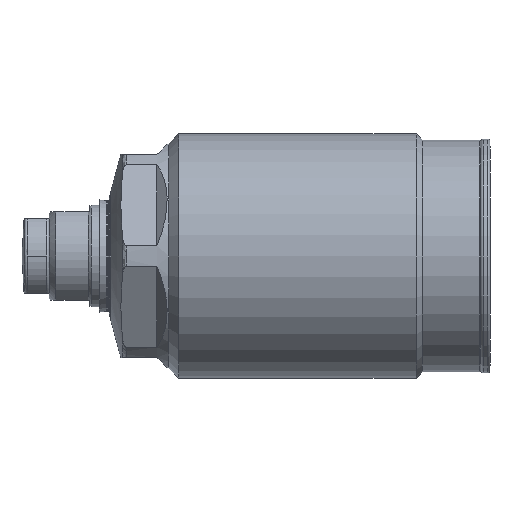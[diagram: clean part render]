
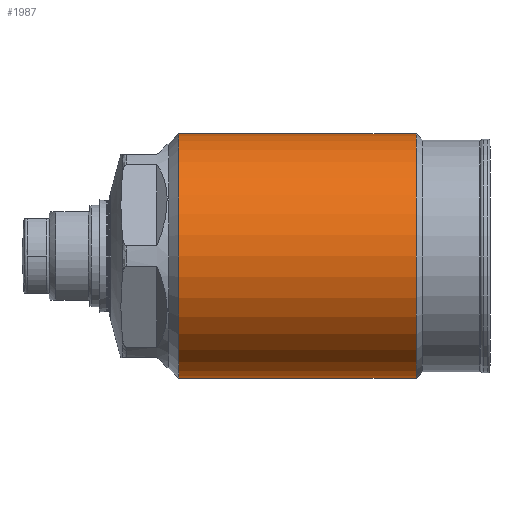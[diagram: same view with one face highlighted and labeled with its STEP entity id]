
A CAD part, left-side view. The second image highlights one B-rep face of the part: STEP entity #1987.
In plain terms, the highlighted cylindrical face has radius 18 mm (diameter 36 mm), a partial arc.
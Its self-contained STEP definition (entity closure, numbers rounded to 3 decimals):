
#933=CYLINDRICAL_SURFACE('',#6668,18.);
#1420=LINE('',#10041,#1719);
#1421=LINE('',#10045,#1720);
#1719=VECTOR('',#7981,1.);
#1720=VECTOR('',#7984,1.);
#1987=ADVANCED_FACE('',(#2415),#933,.T.);
#2415=FACE_OUTER_BOUND('',#2793,.T.);
#2793=EDGE_LOOP('',(#3844,#3845,#3846,#3847));
#3844=ORIENTED_EDGE('',*,*,#5422,.T.);
#3845=ORIENTED_EDGE('',*,*,#5526,.T.);
#3846=ORIENTED_EDGE('',*,*,#5424,.F.);
#3847=ORIENTED_EDGE('',*,*,#5525,.F.);
#4842=VERTEX_POINT('',#10036);
#4843=VERTEX_POINT('',#10038);
#4844=VERTEX_POINT('',#10042);
#4845=VERTEX_POINT('',#10044);
#5422=EDGE_CURVE('',#4844,#4842,#1420,.T.);
#5424=EDGE_CURVE('',#4845,#4843,#1421,.T.);
#5525=EDGE_CURVE('',#4844,#4845,#6014,.T.);
#5526=EDGE_CURVE('',#4842,#4843,#6015,.T.);
#6014=CIRCLE('',#6665,18.);
#6015=CIRCLE('',#6667,18.);
#6665=AXIS2_PLACEMENT_3D('',#10417,#8243,#8244);
#6667=AXIS2_PLACEMENT_3D('',#10419,#8247,#8248);
#6668=AXIS2_PLACEMENT_3D('',#10420,#8249,#8250);
#7981=DIRECTION('',(0.,1.,0.));
#7984=DIRECTION('',(0.,1.,0.));
#8243=DIRECTION('',(0.,-1.,0.));
#8244=DIRECTION('',(0.,0.,-1.));
#8247=DIRECTION('',(0.,-1.,0.));
#8248=DIRECTION('',(0.,0.,-1.));
#8249=DIRECTION('',(0.,-1.,0.));
#8250=DIRECTION('',(0.,0.,1.));
#10036=CARTESIAN_POINT('',(0.,50.36,18.));
#10038=CARTESIAN_POINT('',(0.,50.36,-18.));
#10041=CARTESIAN_POINT('',(0.,0.,18.));
#10042=CARTESIAN_POINT('',(0.,15.36,18.));
#10044=CARTESIAN_POINT('',(0.,15.36,-18.));
#10045=CARTESIAN_POINT('',(0.,0.,-18.));
#10417=CARTESIAN_POINT('',(0.,15.36,0.));
#10419=CARTESIAN_POINT('',(0.,50.36,0.));
#10420=CARTESIAN_POINT('',(0.,0.,0.));
